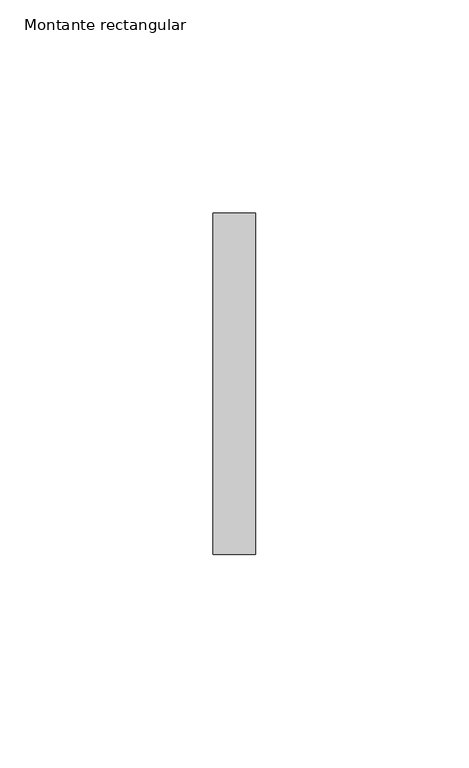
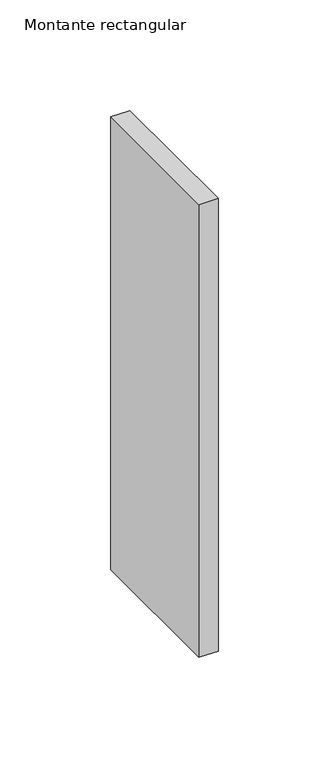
"""IFC4 building model written with IfcOpenShell, lengths in millimetres: member geometry, Montante rectangular : Junta de paves."""

from ifc_helpers import new_model, si_unit, frame, origin, place, context, project, spatial, polyline, outline, extrude, source, transform, mapped, element, save


def montante_rectangular_17f9a402(model_context):
    return source(origin(), model_context, "Body", "SweptSolid", [
        extrude(outline(polyline([(5.0, 40.0), (5.0, -40.0), (-5.0, -40.0), (-5.0, 40.0), (5.0, 40.0)])), frame((0.0, 0.0, -250.0), z_axis=(0.0, 0.0, 1.0), x_axis=(1.0, 0.0, 0.0)), (0.0, 0.0, 1.0), 250.0),
    ])


if __name__ == "__main__":
    model = new_model("IFC4")
    model_context = context("Model", 3, world=origin())
    ifc_project = project(units=[si_unit("LENGTHUNIT", "METRE", prefix="MILLI")], contexts=[model_context])
    site = spatial("IfcSite", under=ifc_project)
    building = spatial("IfcBuilding", under=site)
    placement = place(None, origin())
    montante_rectangular_shape = montante_rectangular_17f9a402(model_context)
    element("IfcMember", 1, ObjectType="Montante rectangular : Junta de paves", at=placement, inside=building, context=model_context, shape_type="MappedRepresentation", body=[
        mapped(montante_rectangular_shape, transform((0.0, 0.0, 0.0), x_axis=(1.0, 0.0, 0.0), y_axis=(0.0, 1.0, 0.0), z_axis=(0.0, 0.0, 1.0))),
    ])
    save(model, "model.ifc")
